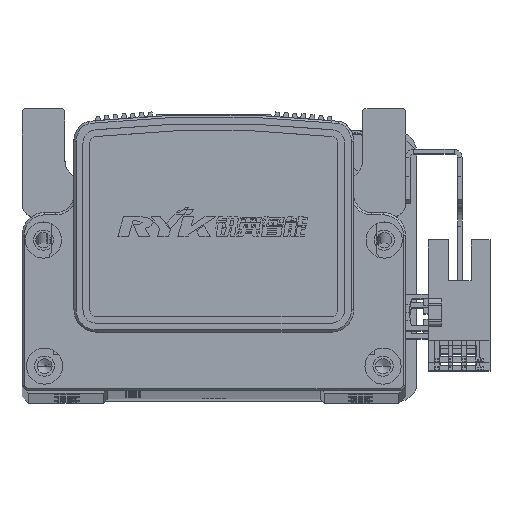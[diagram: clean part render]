
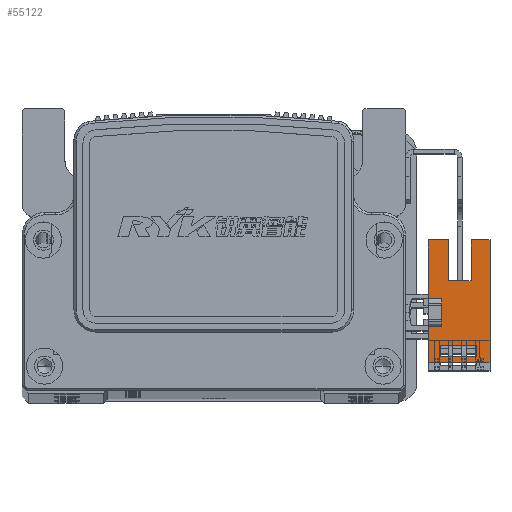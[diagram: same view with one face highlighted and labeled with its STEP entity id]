
A CAD part, top view. The second image highlights one B-rep face of the part: STEP entity #55122.
In plain terms, the highlighted planar face has unit normal (0, 0, 1) as drawn and (1, 0, 0) by its records, which use the part's own axes.
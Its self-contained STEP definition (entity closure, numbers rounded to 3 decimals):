
#20172 = CARTESIAN_POINT ( 'NONE',  ( 3.2, 16.1, 3. ) ) ;
#20668 = DIRECTION ( 'NONE',  ( 0., 1., 0. ) ) ;
#20782 = CARTESIAN_POINT ( 'NONE',  ( 3.2, 16.1, 3. ) ) ;
#20787 = DIRECTION ( 'NONE',  ( 0., 1., 0. ) ) ;
#20866 = DIRECTION ( 'NONE',  ( 0., -1., 0. ) ) ;
#20873 = CARTESIAN_POINT ( 'NONE',  ( 3.2, 16.1, 0.3 ) ) ;
#20877 = DIRECTION ( 'NONE',  ( 0., 1., 0. ) ) ;
#20885 = CARTESIAN_POINT ( 'NONE',  ( 3.2, 16.1, -10.7 ) ) ;
#20892 = DIRECTION ( 'NONE',  ( 0., 0., 1. ) ) ;
#20895 = CARTESIAN_POINT ( 'NONE',  ( 3.2, 3.1, 3. ) ) ;
#20900 = DIRECTION ( 'NONE',  ( 0., 0., 1. ) ) ;
#20915 = CARTESIAN_POINT ( 'NONE',  ( 3.2, 16.1, -7.7 ) ) ;
#20926 = DIRECTION ( 'NONE',  ( 0., 0., 1. ) ) ;
#20935 = CARTESIAN_POINT ( 'NONE',  ( 3.2, 16.1, -10.7 ) ) ;
#20978 = DIRECTION ( 'NONE',  ( 0., 1., 0. ) ) ;
#21007 = CARTESIAN_POINT ( 'NONE',  ( 3.2, 0., 0. ) ) ;
#21010 = CARTESIAN_POINT ( 'NONE',  ( 3.2, -9.83, -10.7 ) ) ;
#21013 = DIRECTION ( 'NONE',  ( 0., 0., -1. ) ) ;
#21516 = LINE ( 'NONE', #20915, #21672 ) ;
#21555 = LINE ( 'NONE', #20782, #21657 ) ;
#21558 = LINE ( 'NONE', #20895, #21621 ) ;
#21561 = VECTOR ( 'NONE', #20866, 1000. ) ;
#21597 = LINE ( 'NONE', #20885, #21675 ) ;
#21621 = VECTOR ( 'NONE', #20900, 1000. ) ;
#21657 = VECTOR ( 'NONE', #20787, 1000. ) ;
#21672 = VECTOR ( 'NONE', #20877, 1000. ) ;
#21675 = VECTOR ( 'NONE', #20892, 1000. ) ;
#21678 = LINE ( 'NONE', #20873, #21561 ) ;
#21723 = LINE ( 'NONE', #20935, #21738 ) ;
#21738 = VECTOR ( 'NONE', #20926, 1000. ) ;
#21744 = LINE ( 'NONE', #21010, #21867 ) ;
#21747 = VECTOR ( 'NONE', #20978, 1000. ) ;
#21750 = LINE ( 'NONE', #20172, #21783 ) ;
#21753 = VECTOR ( 'NONE', #24874, 1000. ) ;
#21783 = VECTOR ( 'NONE', #20668, 1000. ) ;
#21786 = LINE ( 'NONE', #24932, #21753 ) ;
#21822 = LINE ( 'NONE', #21007, #21747 ) ;
#21867 = VECTOR ( 'NONE', #21013, 1000. ) ;
#21870 = LINE ( 'NONE', #24903, #21873 ) ;
#21873 = VECTOR ( 'NONE', #24962, 1000. ) ;
#21915 = VECTOR ( 'NONE', #24893, 1000. ) ;
#21939 = LINE ( 'NONE', #25010, #21996 ) ;
#21996 = VECTOR ( 'NONE', #25001, 1000. ) ;
#22023 = LINE ( 'NONE', #24910, #21915 ) ;
#22069 = VERTEX_POINT ( 'NONE', #69564 ) ;
#22099 = VERTEX_POINT ( 'NONE', #69528 ) ;
#22101 = VECTOR ( 'NONE', #25163, 1000. ) ;
#22117 = VERTEX_POINT ( 'NONE', #69555 ) ;
#22129 = VERTEX_POINT ( 'NONE', #69525 ) ;
#22140 = VECTOR ( 'NONE', #25323, 1000. ) ;
#22179 = LINE ( 'NONE', #25245, #22140 ) ;
#22188 = LINE ( 'NONE', #25135, #22101 ) ;
#22189 = VERTEX_POINT ( 'NONE', #69503 ) ;
#22224 = LINE ( 'NONE', #25202, #22227 ) ;
#22227 = VECTOR ( 'NONE', #25187, 1000. ) ;
#22264 = VERTEX_POINT ( 'NONE', #69512 ) ;
#22315 = VERTEX_POINT ( 'NONE', #69596 ) ;
#22327 = VERTEX_POINT ( 'NONE', #69611 ) ;
#22336 = VERTEX_POINT ( 'NONE', #69580 ) ;
#22372 = VERTEX_POINT ( 'NONE', #69593 ) ;
#22387 = VERTEX_POINT ( 'NONE', #69582 ) ;
#22402 = VERTEX_POINT ( 'NONE', #69571 ) ;
#22723 = VERTEX_POINT ( 'NONE', #69742 ) ;
#23494 = VERTEX_POINT ( 'NONE', #69953 ) ;
#23599 = VERTEX_POINT ( 'NONE', #69974 ) ;
#23715 = VERTEX_POINT ( 'NONE', #70074 ) ;
#24139 = ORIENTED_EDGE ( 'NONE', *, *, #27037, .F. ) ;
#24154 = ORIENTED_EDGE ( 'NONE', *, *, #27055, .F. ) ;
#24175 = ORIENTED_EDGE ( 'NONE', *, *, #27203, .F. ) ;
#24193 = ORIENTED_EDGE ( 'NONE', *, *, #27323, .T. ) ;
#24196 = ORIENTED_EDGE ( 'NONE', *, *, #27061, .F. ) ;
#24207 = ORIENTED_EDGE ( 'NONE', *, *, #27179, .F. ) ;
#24216 = ORIENTED_EDGE ( 'NONE', *, *, #27134, .F. ) ;
#24238 = ORIENTED_EDGE ( 'NONE', *, *, #27052, .T. ) ;
#24241 = ORIENTED_EDGE ( 'NONE', *, *, #27042, .F. ) ;
#24244 = ORIENTED_EDGE ( 'NONE', *, *, #27136, .F. ) ;
#24250 = ORIENTED_EDGE ( 'NONE', *, *, #27257, .T. ) ;
#24253 = ORIENTED_EDGE ( 'NONE', *, *, #27170, .T. ) ;
#24255 = ORIENTED_EDGE ( 'NONE', *, *, #27319, .T. ) ;
#24258 = ORIENTED_EDGE ( 'NONE', *, *, #27161, .F. ) ;
#24274 = ORIENTED_EDGE ( 'NONE', *, *, #27360, .F. ) ;
#24280 = ORIENTED_EDGE ( 'NONE', *, *, #27131, .T. ) ;
#24874 = DIRECTION ( 'NONE',  ( 0., 1., 0. ) ) ;
#24893 = DIRECTION ( 'NONE',  ( 0., 0., 1. ) ) ;
#24903 = CARTESIAN_POINT ( 'NONE',  ( 3.2, -7.33, -10.7 ) ) ;
#24910 = CARTESIAN_POINT ( 'NONE',  ( 3.2, -11.1, 3. ) ) ;
#24932 = CARTESIAN_POINT ( 'NONE',  ( 3.2, 16.1, -10.7 ) ) ;
#24962 = DIRECTION ( 'NONE',  ( 0., 0., 1. ) ) ;
#25001 = DIRECTION ( 'NONE',  ( 0., 1., 0. ) ) ;
#25010 = CARTESIAN_POINT ( 'NONE',  ( 3.2, 25.1, -1.5 ) ) ;
#25135 = CARTESIAN_POINT ( 'NONE',  ( 3.2, 25.1, -6.5 ) ) ;
#25163 = DIRECTION ( 'NONE',  ( 0., -1., 0. ) ) ;
#25187 = DIRECTION ( 'NONE',  ( 0., 0., 1. ) ) ;
#25202 = CARTESIAN_POINT ( 'NONE',  ( 3.2, 7.1, -6.5 ) ) ;
#25245 = CARTESIAN_POINT ( 'NONE',  ( 3.2, -3.1, 3. ) ) ;
#25323 = DIRECTION ( 'NONE',  ( 0., 0., -1. ) ) ;
#27037 = EDGE_CURVE ( 'NONE', #22315, #22129, #21555, .T. ) ;
#27042 = EDGE_CURVE ( 'NONE', #22723, #22402, #21516, .T. ) ;
#27052 = EDGE_CURVE ( 'NONE', #22099, #22336, #21597, .T. ) ;
#27055 = EDGE_CURVE ( 'NONE', #23715, #22069, #21678, .T. ) ;
#27061 = EDGE_CURVE ( 'NONE', #22372, #22315, #21558, .T. ) ;
#27131 = EDGE_CURVE ( 'NONE', #22387, #22129, #21723, .T. ) ;
#27134 = EDGE_CURVE ( 'NONE', #22264, #22372, #21822, .T. ) ;
#27136 = EDGE_CURVE ( 'NONE', #22069, #22723, #21744, .T. ) ;
#27161 = EDGE_CURVE ( 'NONE', #22117, #22189, #21750, .T. ) ;
#27170 = EDGE_CURVE ( 'NONE', #23494, #22099, #21786, .T. ) ;
#27179 = EDGE_CURVE ( 'NONE', #22402, #23715, #21870, .T. ) ;
#27203 = EDGE_CURVE ( 'NONE', #23494, #22117, #22023, .T. ) ;
#27257 = EDGE_CURVE ( 'NONE', #22327, #22387, #21939, .T. ) ;
#27319 = EDGE_CURVE ( 'NONE', #22336, #23599, #22188, .T. ) ;
#27323 = EDGE_CURVE ( 'NONE', #23599, #22327, #22224, .T. ) ;
#27360 = EDGE_CURVE ( 'NONE', #22189, #22264, #22179, .T. ) ;
#48181 = FACE_OUTER_BOUND ( 'NONE', #56563, .T. ) ;
#48248 = FACE_BOUND ( 'NONE', #56574, .T. ) ;
#55122 = ADVANCED_FACE ( 'NONE', ( #48181, #48248 ), #57593, .T. ) ;
#56563 = EDGE_LOOP ( 'NONE', ( #24255, #24193, #24250, #24280, #24139, #24196, #24216, #24274, #24258, #24175, #24253, #24238 ) ) ;
#56574 = EDGE_LOOP ( 'NONE', ( #24154, #24207, #24241, #24244 ) ) ;
#57593 = PLANE ( 'NONE',  #68586 ) ;
#57602 = CARTESIAN_POINT ( 'NONE',  ( 3.2, 16.1, -10.7 ) ) ;
#57607 = DIRECTION ( 'NONE',  ( 1., 0., 0. ) ) ;
#57660 = DIRECTION ( 'NONE',  ( 0., 1., 0. ) ) ;
#68586 = AXIS2_PLACEMENT_3D ( 'NONE', #57602, #57607, #57660 ) ;
#69503 = CARTESIAN_POINT ( 'NONE',  ( 3.2, -3.1, 3. ) ) ;
#69512 = CARTESIAN_POINT ( 'NONE',  ( 3.2, -3.1, 0. ) ) ;
#69525 = CARTESIAN_POINT ( 'NONE',  ( 3.2, 16.1, 3. ) ) ;
#69528 = CARTESIAN_POINT ( 'NONE',  ( 3.2, 16.1, -10.7 ) ) ;
#69555 = CARTESIAN_POINT ( 'NONE',  ( 3.2, -11.1, 3. ) ) ;
#69564 = CARTESIAN_POINT ( 'NONE',  ( 3.2, -9.83, 0.3 ) ) ;
#69571 = CARTESIAN_POINT ( 'NONE',  ( 3.2, -7.33, -7.7 ) ) ;
#69580 = CARTESIAN_POINT ( 'NONE',  ( 3.2, 16.1, -6.5 ) ) ;
#69582 = CARTESIAN_POINT ( 'NONE',  ( 3.2, 16.1, -1.5 ) ) ;
#69593 = CARTESIAN_POINT ( 'NONE',  ( 3.2, 3.1, 0. ) ) ;
#69596 = CARTESIAN_POINT ( 'NONE',  ( 3.2, 3.1, 3. ) ) ;
#69611 = CARTESIAN_POINT ( 'NONE',  ( 3.2, 7.1, -1.5 ) ) ;
#69742 = CARTESIAN_POINT ( 'NONE',  ( 3.2, -9.83, -7.7 ) ) ;
#69953 = CARTESIAN_POINT ( 'NONE',  ( 3.2, -11.1, -10.7 ) ) ;
#69974 = CARTESIAN_POINT ( 'NONE',  ( 3.2, 7.1, -6.5 ) ) ;
#70074 = CARTESIAN_POINT ( 'NONE',  ( 3.2, -7.33, 0.3 ) ) ;
